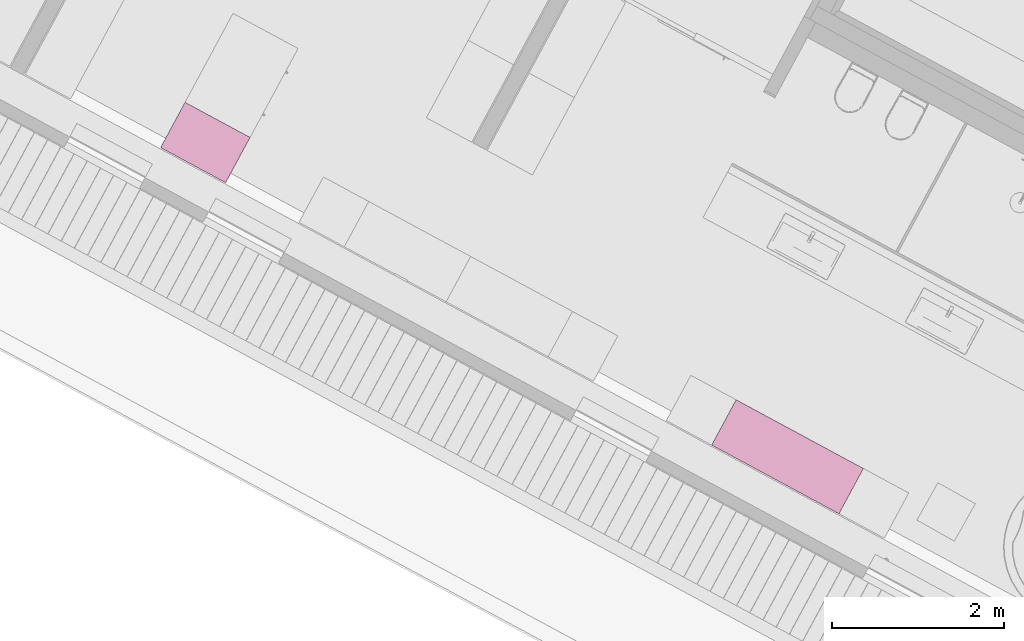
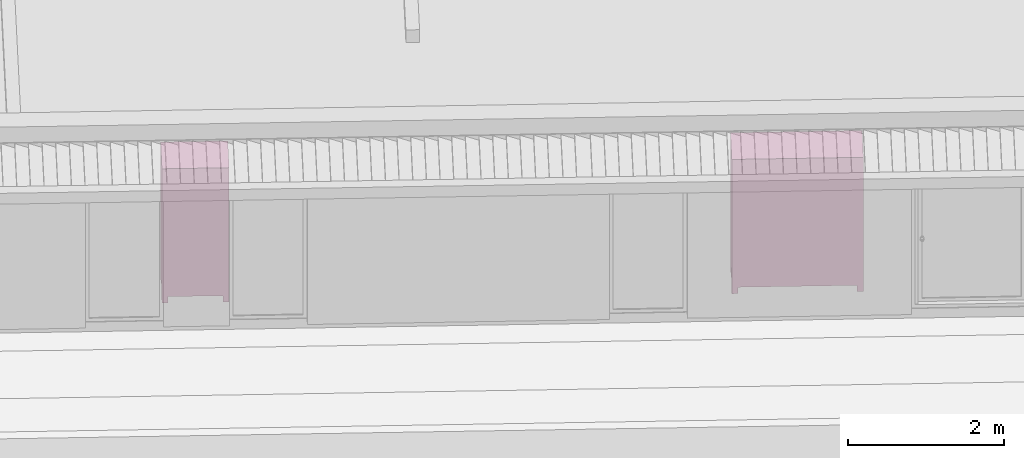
# One storey, part 25 of 48: 2 furnishings.
"""IFC2X3 building model written with IfcOpenShell, lengths in metres."""

from ifc_helpers import new_model, entity, si_unit, converted_unit, derived_unit, money_unit, direction, frame, origin_with_axes, place, context, subcontext, project, spatial, faceted_brep, type_object, element, save


model = new_model("IFC2X3")

# Units and contexts
model_context = context("Model", 3, precision=1e-05, world=origin_with_axes(), true_north=direction((0.0, 1.0)))
body_context = subcontext(model_context, "Body", "Model", "MODEL_VIEW")
ifc_project = project(units=[si_unit("LENGTHUNIT", "METRE"), si_unit("AREAUNIT", "SQUARE_METRE"), si_unit("VOLUMEUNIT", "CUBIC_METRE"), converted_unit("PLANEANGLEUNIT", "DEGREE", entity("IfcPlaneAngleMeasure", 0.0174532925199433), si_unit("PLANEANGLEUNIT", "RADIAN"), dimensions=[0, 0, 0, 0, 0, 0, 0]), money_unit("EUR"), converted_unit("TIMEUNIT", "Year", entity("IfcTimeMeasure", 31556926.0), si_unit("TIMEUNIT", "SECOND"), dimensions=[0, 0, 1, 0, 0, 0, 0]), si_unit("MASSUNIT", "GRAM", prefix="KILO"), si_unit("THERMODYNAMICTEMPERATUREUNIT", "DEGREE_CELSIUS"), si_unit("LUMINOUSINTENSITYUNIT", "LUMEN"), si_unit("ENERGYUNIT", "JOULE", prefix="MEGA"), derived_unit("THERMALCONDUCTANCEUNIT", [(si_unit("POWERUNIT", "WATT"), 1), (si_unit("LENGTHUNIT", "METRE"), -1), (si_unit("THERMODYNAMICTEMPERATUREUNIT", "KELVIN"), -1)]), derived_unit("SPECIFICHEATCAPACITYUNIT", [(si_unit("ENERGYUNIT", "JOULE"), 1), (si_unit("MASSUNIT", "GRAM", prefix="KILO"), -1), (si_unit("THERMODYNAMICTEMPERATUREUNIT", "KELVIN"), -1)]), derived_unit("MASSDENSITYUNIT", [(si_unit("MASSUNIT", "GRAM", prefix="KILO"), 1), (si_unit("VOLUMEUNIT", "CUBIC_METRE"), -1)])], contexts=[model_context])

# Site, building, storey
site_placement = place(None, frame((-3.949935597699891, 1.740105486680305, 0.0), z_axis=(0.0, 0.0, 1.0), x_axis=(0.8799804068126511, -0.475009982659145, 0.0)))
site = spatial("IfcSite", under=ifc_project, at=site_placement, Name="Gelände", CompositionType="ELEMENT")
building_placement = place(site_placement, origin_with_axes())
building = spatial("IfcBuilding", under=site, at=building_placement, Name="Gebäude", CompositionType="ELEMENT")
storey_placement = place(building_placement, frame((0.0, 0.0, 4.55), z_axis=(0.0, 0.0, 1.0), x_axis=(1.0, 0.0, 0.0)))
storey = spatial("IfcBuildingStorey", under=building, at=storey_placement, Name="Staffelgeschoss", CompositionType="ELEMENT", Elevation=4.55)

# Furnishings
furnishing_element_type = type_object("IfcFurnishingElementType", Name="Kleiderschrank 22")
furnishing_1_placement = place(storey_placement, frame((13.41639593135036, 2.239997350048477, 0.0), z_axis=(0.0, 0.0, 1.0), x_axis=(-1.0, 0.0, 0.0)))
element("IfcFurnishingElement", 1, at=furnishing_1_placement, inside=storey, type_object=furnishing_element_type, Name="Objekt-0066", context=body_context, shape_type="Brep", body=[
    faceted_brep([(-0.02000000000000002, 0.6000049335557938, 0.12), (-0.02000000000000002, 0.6000049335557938, 2.05), (-0.02000000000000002, 0.5800049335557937, 2.05), (-0.02000000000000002, 0.5800049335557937, 0.12), (-0.8418297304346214, 0.6000049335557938, 0.12), (-0.8418297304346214, 0.6000049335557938, 2.05), (-0.8418297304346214, 0.5800049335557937, 2.05), (-0.8418297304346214, 0.5800049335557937, 0.12)], [[[0, 1, 2, 3]], [[4, 5, 1, 0]], [[1, 5, 6, 2]], [[3, 2, 6, 7]], [[0, 3, 7, 4]], [[7, 6, 5, 4]]]),
    faceted_brep([(-0.8618297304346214, 0.05000000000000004, 0.1), (-0.8618297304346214, 0.6000049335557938, 0.1), (-0.8418297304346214, 0.6000049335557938, 0.1), (-0.8418297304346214, 0.05000000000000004, 0.1), (-0.8618297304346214, 0.05000000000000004, 2.07), (-0.8618297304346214, 0.6000049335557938, 2.07), (-0.8418297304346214, 0.6000049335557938, 2.07), (-0.8418297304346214, 0.05000000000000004, 2.07)], [[[0, 1, 2, 3]], [[0, 4, 5, 1]], [[1, 5, 6, 2]], [[2, 6, 7, 3]], [[3, 7, 4, 0]], [[7, 6, 5, 4]]]),
    faceted_brep([(-0.02, 0.05000000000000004, 0.1), (-0.02, 0.6000049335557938, 0.1), (0.0, 0.6000049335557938, 0.1), (0.0, 0.05000000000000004, 0.1), (-0.02, 0.05000000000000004, 2.07), (-0.02, 0.6000049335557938, 2.07), (0.0, 0.6000049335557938, 2.07), (0.0, 0.05000000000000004, 2.07)], [[[0, 1, 2, 3]], [[0, 4, 5, 1]], [[1, 5, 6, 2]], [[2, 6, 7, 3]], [[3, 7, 4, 0]], [[7, 6, 5, 4]]]),
    faceted_brep([(-0.8418297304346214, 0.05000000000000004, 0.1), (-0.8418297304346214, 0.6000049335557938, 0.1), (-0.02000000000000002, 0.6000049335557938, 0.1), (-0.02000000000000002, 0.05000000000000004, 0.1), (-0.8418297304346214, 0.05000000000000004, 0.12), (-0.8418297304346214, 0.6000049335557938, 0.12), (-0.02000000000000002, 0.6000049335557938, 0.12), (-0.02000000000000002, 0.05000000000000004, 0.12)], [[[0, 1, 2, 3]], [[0, 4, 5, 1]], [[1, 5, 6, 2]], [[2, 6, 7, 3]], [[3, 7, 4, 0]], [[7, 6, 5, 4]]]),
    faceted_brep([(-0.8418297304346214, 0.05000000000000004, 2.05), (-0.8418297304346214, 0.6000049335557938, 2.05), (-0.02000000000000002, 0.6000049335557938, 2.05), (-0.02000000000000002, 0.05000000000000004, 2.05), (-0.8418297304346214, 0.05000000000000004, 2.07), (-0.8418297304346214, 0.6000049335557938, 2.07), (-0.02000000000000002, 0.6000049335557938, 2.07), (-0.02000000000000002, 0.05000000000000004, 2.07)], [[[0, 1, 2, 3]], [[0, 4, 5, 1]], [[1, 5, 6, 2]], [[2, 6, 7, 3]], [[3, 7, 4, 0]], [[7, 6, 5, 4]]]),
    faceted_brep([(-0.8618297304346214, 0.6000049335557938, 2.07), (-0.8618297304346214, 0.0, 2.07), (-0.8618297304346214, 0.0, 2.1), (-0.8618297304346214, 0.6000049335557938, 2.1), (0.0, 0.6000049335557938, 2.07), (0.0, 0.0, 2.07), (0.0, 0.0, 2.1), (0.0, 0.6000049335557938, 2.1)], [[[0, 1, 2, 3]], [[0, 4, 5, 1]], [[1, 5, 6, 2]], [[3, 2, 6, 7]], [[4, 0, 3, 7]], [[5, 4, 7, 6]]]),
    faceted_brep([(-0.07999999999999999, 0.5200049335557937, 0.0), (-0.07999999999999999, 0.5200049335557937, 0.1), (-0.07999999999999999, 0.6000049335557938, 0.1), (-0.07999999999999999, 0.6000049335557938, 0.0), (0.0, 0.5200049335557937, 0.0), (0.0, 0.5200049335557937, 0.1), (0.0, 0.6000049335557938, 0.1), (0.0, 0.6000049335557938, 0.0)], [[[0, 1, 2, 3]], [[4, 5, 1, 0]], [[1, 5, 6, 2]], [[3, 2, 6, 7]], [[0, 3, 7, 4]], [[7, 6, 5, 4]]]),
    faceted_brep([(-0.8618297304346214, 0.5200049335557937, 0.0), (-0.8618297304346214, 0.5200049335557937, 0.1), (-0.8618297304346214, 0.6000049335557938, 0.1), (-0.8618297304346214, 0.6000049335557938, 0.0), (-0.7818297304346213, 0.5200049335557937, 0.0), (-0.7818297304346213, 0.5200049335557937, 0.1), (-0.7818297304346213, 0.6000049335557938, 0.1), (-0.7818297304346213, 0.6000049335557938, 0.0)], [[[0, 1, 2, 3]], [[4, 5, 1, 0]], [[1, 5, 6, 2]], [[3, 2, 6, 7]], [[0, 3, 7, 4]], [[7, 6, 5, 4]]]),
    faceted_brep([(-0.07999999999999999, 0.05000000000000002, 0.0), (-0.07999999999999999, 0.05000000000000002, 0.1), (-0.07999999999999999, 0.13, 0.1), (-0.07999999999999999, 0.13, 0.0), (0.0, 0.05000000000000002, 0.0), (0.0, 0.05000000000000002, 0.1), (0.0, 0.13, 0.1), (0.0, 0.13, 0.0)], [[[0, 1, 2, 3]], [[4, 5, 1, 0]], [[1, 5, 6, 2]], [[3, 2, 6, 7]], [[0, 3, 7, 4]], [[7, 6, 5, 4]]]),
    faceted_brep([(-0.8618297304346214, 0.05000000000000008, 0.0), (-0.8618297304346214, 0.05000000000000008, 0.1), (-0.8618297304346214, 0.1300000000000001, 0.1), (-0.8618297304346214, 0.1300000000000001, 0.0), (-0.7818297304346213, 0.05000000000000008, 0.0), (-0.7818297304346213, 0.05000000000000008, 0.1), (-0.7818297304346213, 0.1300000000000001, 0.1), (-0.7818297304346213, 0.1300000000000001, 0.0)], [[[0, 1, 2, 3]], [[4, 5, 1, 0]], [[1, 5, 6, 2]], [[3, 2, 6, 7]], [[0, 3, 7, 4]], [[7, 6, 5, 4]]]),
    faceted_brep([(-0.4304148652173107, 0.05, 0.1104999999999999), (-0.4304148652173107, 0.03, 0.1104999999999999), (-0.4304148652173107, 0.03000000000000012, 2.0595), (-0.4304148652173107, 0.05000000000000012, 2.0595), (-0.4004148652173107, 0.05, 0.1405), (-0.4004148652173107, 0.03000000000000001, 0.1405), (-0.4004148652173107, 0.03000000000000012, 2.0295), (-0.4004148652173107, 0.05000000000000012, 2.0295)], [[[0, 1, 2, 3]], [[4, 5, 1, 0]], [[1, 5, 6, 2]], [[3, 2, 6, 7]], [[0, 3, 7, 4]], [[7, 6, 5, 4]]]),
    faceted_brep([(-0.04050000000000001, 0.05, 0.1405), (-0.04050000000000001, 0.03000000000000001, 0.1405), (-0.04050000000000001, 0.03000000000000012, 2.0295), (-0.04050000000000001, 0.05000000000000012, 2.0295), (-0.01050000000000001, 0.05, 0.1104999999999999), (-0.01050000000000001, 0.03, 0.1104999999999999), (-0.01050000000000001, 0.03000000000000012, 2.0595), (-0.01050000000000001, 0.05000000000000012, 2.0595)], [[[0, 1, 2, 3]], [[4, 5, 1, 0]], [[1, 5, 6, 2]], [[3, 2, 6, 7]], [[0, 3, 7, 4]], [[7, 6, 5, 4]]]),
    faceted_brep([(-0.01050000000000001, 0.05, 0.1104999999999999), (-0.01050000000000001, 0.03, 0.1104999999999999), (-0.4304148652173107, 0.03, 0.1104999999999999), (-0.4304148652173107, 0.05, 0.1104999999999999), (-0.04050000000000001, 0.05, 0.1405), (-0.04050000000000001, 0.03000000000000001, 0.1405), (-0.4004148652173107, 0.03000000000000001, 0.1405), (-0.4004148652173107, 0.05, 0.1405)], [[[0, 1, 2, 3]], [[4, 5, 1, 0]], [[1, 5, 6, 2]], [[3, 2, 6, 7]], [[0, 3, 7, 4]], [[7, 6, 5, 4]]]),
    faceted_brep([(-0.04050000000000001, 0.05000000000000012, 2.0295), (-0.04050000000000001, 0.03000000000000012, 2.0295), (-0.4004148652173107, 0.03000000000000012, 2.0295), (-0.4004148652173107, 0.05000000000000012, 2.0295), (-0.01050000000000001, 0.05000000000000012, 2.0595), (-0.01050000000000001, 0.03000000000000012, 2.0595), (-0.4304148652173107, 0.03000000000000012, 2.0595), (-0.4304148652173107, 0.05000000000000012, 2.0595)], [[[0, 1, 2, 3]], [[4, 5, 1, 0]], [[1, 5, 6, 2]], [[3, 2, 6, 7]], [[0, 3, 7, 4]], [[7, 6, 5, 4]]]),
    faceted_brep([(-0.4004148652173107, 0.04500000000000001, 0.1405), (-0.4004148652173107, 0.035, 0.1405), (-0.4004148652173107, 0.03500000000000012, 2.0295), (-0.4004148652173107, 0.04500000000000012, 2.0295), (-0.04050000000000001, 0.04500000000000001, 0.1405), (-0.04050000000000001, 0.035, 0.1405), (-0.04050000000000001, 0.03500000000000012, 2.0295), (-0.04050000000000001, 0.04500000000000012, 2.0295)], [[[0, 1, 2, 3]], [[4, 5, 1, 0]], [[1, 5, 6, 2]], [[3, 2, 6, 7]], [[0, 3, 7, 4]], [[7, 6, 5, 4]]]),
    faceted_brep([(-0.390307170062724, 0.035, 0.954), (-0.3919148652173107, 0.035, 0.96), (-0.390307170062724, 0.035, 0.966), (-0.3859148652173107, 0.035, 0.9703923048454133), (-0.3799148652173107, 0.035, 0.972), (-0.3739148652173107, 0.035, 0.9703923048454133), (-0.3695225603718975, 0.035, 0.966), (-0.3679148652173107, 0.035, 0.96), (-0.3695225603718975, 0.035, 0.954), (-0.3739148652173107, 0.035, 0.9496076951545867), (-0.3799148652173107, 0.035, 0.948), (-0.3859148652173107, 0.035, 0.9496076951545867), (-0.390307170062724, 0.01, 0.954), (-0.3919148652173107, 0.01, 0.96), (-0.390307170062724, 0.01, 0.966), (-0.3859148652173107, 0.01, 0.9703923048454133), (-0.3799148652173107, 0.01, 0.972), (-0.3739148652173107, 0.01, 0.9703923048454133), (-0.3695225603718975, 0.01, 0.966), (-0.3679148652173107, 0.01, 0.96), (-0.3695225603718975, 0.01, 0.954), (-0.3739148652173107, 0.01, 0.9496076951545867), (-0.3799148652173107, 0.01, 0.948), (-0.3859148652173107, 0.01, 0.9496076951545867)], [[[0, 1, 2, 3, 4, 5, 6, 7, 8, 9, 10, 11]], [[0, 12, 13, 1]], [[1, 13, 14, 2]], [[2, 14, 15, 3]], [[3, 15, 16, 4]], [[4, 16, 17, 5]], [[5, 17, 18, 6]], [[6, 18, 19, 7]], [[7, 19, 20, 8]], [[8, 20, 21, 9]], [[9, 21, 22, 10]], [[10, 22, 23, 11]], [[11, 23, 12, 0]], [[12, 23, 22, 21, 20, 19, 18, 17, 16, 15, 14, 13]]]),
    faceted_brep([(-0.8523297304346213, 0.05, 0.1104999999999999), (-0.8523297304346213, 0.03, 0.1104999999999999), (-0.8523297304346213, 0.03000000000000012, 2.0595), (-0.8523297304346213, 0.05000000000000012, 2.0595), (-0.8223297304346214, 0.05, 0.1405), (-0.8223297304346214, 0.03000000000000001, 0.1405), (-0.8223297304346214, 0.03000000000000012, 2.0295), (-0.8223297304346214, 0.05000000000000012, 2.0295)], [[[0, 1, 2, 3]], [[4, 5, 1, 0]], [[1, 5, 6, 2]], [[3, 2, 6, 7]], [[0, 3, 7, 4]], [[7, 6, 5, 4]]]),
    faceted_brep([(-0.4624148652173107, 0.05, 0.1405), (-0.4624148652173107, 0.03000000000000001, 0.1405), (-0.4624148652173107, 0.03000000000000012, 2.0295), (-0.4624148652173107, 0.05000000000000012, 2.0295), (-0.4324148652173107, 0.05, 0.1104999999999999), (-0.4324148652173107, 0.03, 0.1104999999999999), (-0.4324148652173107, 0.03000000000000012, 2.0595), (-0.4324148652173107, 0.05000000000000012, 2.0595)], [[[0, 1, 2, 3]], [[4, 5, 1, 0]], [[1, 5, 6, 2]], [[3, 2, 6, 7]], [[0, 3, 7, 4]], [[7, 6, 5, 4]]]),
    faceted_brep([(-0.4324148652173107, 0.05, 0.1104999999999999), (-0.4324148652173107, 0.03, 0.1104999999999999), (-0.8523297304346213, 0.03, 0.1104999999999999), (-0.8523297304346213, 0.05, 0.1104999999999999), (-0.4624148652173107, 0.05, 0.1405), (-0.4624148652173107, 0.03000000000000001, 0.1405), (-0.8223297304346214, 0.03000000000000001, 0.1405), (-0.8223297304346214, 0.05, 0.1405)], [[[0, 1, 2, 3]], [[4, 5, 1, 0]], [[1, 5, 6, 2]], [[3, 2, 6, 7]], [[0, 3, 7, 4]], [[7, 6, 5, 4]]]),
    faceted_brep([(-0.4624148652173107, 0.05000000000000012, 2.0295), (-0.4624148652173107, 0.03000000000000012, 2.0295), (-0.8223297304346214, 0.03000000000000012, 2.0295), (-0.8223297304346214, 0.05000000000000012, 2.0295), (-0.4324148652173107, 0.05000000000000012, 2.0595), (-0.4324148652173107, 0.03000000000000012, 2.0595), (-0.8523297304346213, 0.03000000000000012, 2.0595), (-0.8523297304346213, 0.05000000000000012, 2.0595)], [[[0, 1, 2, 3]], [[4, 5, 1, 0]], [[1, 5, 6, 2]], [[3, 2, 6, 7]], [[0, 3, 7, 4]], [[7, 6, 5, 4]]]),
    faceted_brep([(-0.8223297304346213, 0.04500000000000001, 0.1405), (-0.8223297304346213, 0.04000000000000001, 0.1405), (-0.8223297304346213, 0.04000000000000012, 2.0295), (-0.8223297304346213, 0.04500000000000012, 2.0295), (-0.4624148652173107, 0.04500000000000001, 0.1405), (-0.4624148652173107, 0.04000000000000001, 0.1405), (-0.4624148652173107, 0.04000000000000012, 2.0295), (-0.4624148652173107, 0.04500000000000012, 2.0295)], [[[0, 1, 2, 3]], [[4, 5, 1, 0]], [[1, 5, 6, 2]], [[3, 2, 6, 7]], [[0, 3, 7, 4]], [[7, 6, 5, 4]]]),
    faceted_brep([(-0.8223297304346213, 0.04000000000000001, 0.1405), (-0.8223297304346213, 0.03500000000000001, 0.1405), (-0.8223297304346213, 0.03500000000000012, 2.0295), (-0.8223297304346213, 0.04000000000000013, 2.0295), (-0.4624148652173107, 0.04000000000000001, 0.1405), (-0.4624148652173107, 0.03500000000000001, 0.1405), (-0.4624148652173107, 0.03500000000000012, 2.0295), (-0.4624148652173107, 0.04000000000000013, 2.0295)], [[[0, 1, 2, 3]], [[4, 5, 1, 0]], [[1, 5, 6, 2]], [[3, 2, 6, 7]], [[0, 3, 7, 4]], [[7, 6, 5, 4]]]),
    faceted_brep([(-0.4715225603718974, 0.035, 0.954), (-0.4759148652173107, 0.035, 0.9496076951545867), (-0.4819148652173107, 0.035, 0.948), (-0.4879148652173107, 0.035, 0.9496076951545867), (-0.492307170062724, 0.035, 0.954), (-0.4939148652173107, 0.035, 0.96), (-0.492307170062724, 0.035, 0.966), (-0.4879148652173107, 0.035, 0.9703923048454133), (-0.4819148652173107, 0.035, 0.972), (-0.4759148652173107, 0.035, 0.9703923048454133), (-0.4715225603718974, 0.035, 0.966), (-0.4699148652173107, 0.035, 0.96), (-0.4715225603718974, 0.01, 0.954), (-0.4759148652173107, 0.01, 0.9496076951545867), (-0.4819148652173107, 0.01, 0.948), (-0.4879148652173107, 0.01, 0.9496076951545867), (-0.492307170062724, 0.01, 0.954), (-0.4939148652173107, 0.01, 0.96), (-0.492307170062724, 0.01, 0.966), (-0.4879148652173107, 0.01, 0.9703923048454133), (-0.4819148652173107, 0.01, 0.972), (-0.4759148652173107, 0.01, 0.9703923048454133), (-0.4715225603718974, 0.01, 0.966), (-0.4699148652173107, 0.01, 0.96)], [[[0, 1, 2, 3, 4, 5, 6, 7, 8, 9, 10, 11]], [[1, 0, 12, 13]], [[2, 1, 13, 14]], [[3, 2, 14, 15]], [[4, 3, 15, 16]], [[5, 4, 16, 17]], [[6, 5, 17, 18]], [[7, 6, 18, 19]], [[8, 7, 19, 20]], [[9, 8, 20, 21]], [[10, 9, 21, 22]], [[11, 10, 22, 23]], [[0, 11, 23, 12]], [[12, 23, 22, 21, 20, 19, 18, 17, 16, 15, 14, 13]]]),
])
furnishing_2_placement = place(storey_placement, frame((20.71771607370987, 2.239992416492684, 0.0), z_axis=(0.0, 0.0, 1.0), x_axis=(-1.0, 0.0, 0.0)))
element("IfcFurnishingElement", 2, at=furnishing_2_placement, inside=storey, type_object=furnishing_element_type, Name="Objekt-0066", context=body_context, shape_type="Brep", body=[
    faceted_brep([(-0.02000000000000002, 0.6000000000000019, 0.12), (-0.02000000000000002, 0.6000000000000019, 2.05), (-0.02000000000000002, 0.5800000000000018, 2.05), (-0.02000000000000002, 0.5800000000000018, 0.12), (-1.66712455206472, 0.6000000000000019, 0.12), (-1.66712455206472, 0.6000000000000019, 2.05), (-1.66712455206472, 0.5800000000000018, 2.05), (-1.66712455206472, 0.5800000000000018, 0.12)], [[[0, 1, 2, 3]], [[4, 5, 1, 0]], [[1, 5, 6, 2]], [[3, 2, 6, 7]], [[0, 3, 7, 4]], [[7, 6, 5, 4]]]),
    faceted_brep([(-1.68712455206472, 0.05000000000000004, 0.1), (-1.68712455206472, 0.6000000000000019, 0.1), (-1.66712455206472, 0.6000000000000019, 0.1), (-1.66712455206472, 0.05000000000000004, 0.1), (-1.68712455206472, 0.05000000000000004, 2.07), (-1.68712455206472, 0.6000000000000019, 2.07), (-1.66712455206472, 0.6000000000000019, 2.07), (-1.66712455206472, 0.05000000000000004, 2.07)], [[[0, 1, 2, 3]], [[0, 4, 5, 1]], [[1, 5, 6, 2]], [[2, 6, 7, 3]], [[3, 7, 4, 0]], [[7, 6, 5, 4]]]),
    faceted_brep([(-0.02, 0.05000000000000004, 0.1), (-0.02, 0.6000000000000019, 0.1), (0.0, 0.6000000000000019, 0.1), (0.0, 0.05000000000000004, 0.1), (-0.02, 0.05000000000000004, 2.07), (-0.02, 0.6000000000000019, 2.07), (0.0, 0.6000000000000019, 2.07), (0.0, 0.05000000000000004, 2.07)], [[[0, 1, 2, 3]], [[0, 4, 5, 1]], [[1, 5, 6, 2]], [[2, 6, 7, 3]], [[3, 7, 4, 0]], [[7, 6, 5, 4]]]),
    faceted_brep([(-1.66712455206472, 0.05000000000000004, 0.1), (-1.66712455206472, 0.6000000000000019, 0.1), (-0.02000000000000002, 0.6000000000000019, 0.1), (-0.02000000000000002, 0.05000000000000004, 0.1), (-1.66712455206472, 0.05000000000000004, 0.12), (-1.66712455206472, 0.6000000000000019, 0.12), (-0.02000000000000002, 0.6000000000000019, 0.12), (-0.02000000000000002, 0.05000000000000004, 0.12)], [[[0, 1, 2, 3]], [[0, 4, 5, 1]], [[1, 5, 6, 2]], [[2, 6, 7, 3]], [[3, 7, 4, 0]], [[7, 6, 5, 4]]]),
    faceted_brep([(-1.66712455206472, 0.05000000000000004, 2.05), (-1.66712455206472, 0.6000000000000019, 2.05), (-0.02000000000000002, 0.6000000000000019, 2.05), (-0.02000000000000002, 0.05000000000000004, 2.05), (-1.66712455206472, 0.05000000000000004, 2.07), (-1.66712455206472, 0.6000000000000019, 2.07), (-0.02000000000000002, 0.6000000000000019, 2.07), (-0.02000000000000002, 0.05000000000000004, 2.07)], [[[0, 1, 2, 3]], [[0, 4, 5, 1]], [[1, 5, 6, 2]], [[2, 6, 7, 3]], [[3, 7, 4, 0]], [[7, 6, 5, 4]]]),
    faceted_brep([(-1.68712455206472, 0.6000000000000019, 2.07), (-1.68712455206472, 0.0, 2.07), (-1.68712455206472, 0.0, 2.1), (-1.68712455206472, 0.6000000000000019, 2.1), (0.0, 0.6000000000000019, 2.07), (0.0, 0.0, 2.07), (0.0, 0.0, 2.1), (0.0, 0.6000000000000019, 2.1)], [[[0, 1, 2, 3]], [[0, 4, 5, 1]], [[1, 5, 6, 2]], [[3, 2, 6, 7]], [[4, 0, 3, 7]], [[5, 4, 7, 6]]]),
    faceted_brep([(-0.08000000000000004, 0.5200000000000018, 0.0), (-0.08000000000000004, 0.5200000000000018, 0.1), (-0.08000000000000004, 0.6000000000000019, 0.1), (-0.08000000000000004, 0.6000000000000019, 0.0), (0.0, 0.5200000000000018, 0.0), (0.0, 0.5200000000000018, 0.1), (0.0, 0.6000000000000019, 0.1), (0.0, 0.6000000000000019, 0.0)], [[[0, 1, 2, 3]], [[4, 5, 1, 0]], [[1, 5, 6, 2]], [[3, 2, 6, 7]], [[0, 3, 7, 4]], [[7, 6, 5, 4]]]),
    faceted_brep([(-1.68712455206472, 0.5200000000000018, 0.0), (-1.68712455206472, 0.5200000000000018, 0.1), (-1.68712455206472, 0.6000000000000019, 0.1), (-1.68712455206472, 0.6000000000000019, 0.0), (-1.60712455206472, 0.5200000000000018, 0.0), (-1.60712455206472, 0.5200000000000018, 0.1), (-1.60712455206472, 0.6000000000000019, 0.1), (-1.60712455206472, 0.6000000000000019, 0.0)], [[[0, 1, 2, 3]], [[4, 5, 1, 0]], [[1, 5, 6, 2]], [[3, 2, 6, 7]], [[0, 3, 7, 4]], [[7, 6, 5, 4]]]),
    faceted_brep([(-0.08000000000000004, 0.05000000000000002, 0.0), (-0.08000000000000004, 0.05000000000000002, 0.1), (-0.08000000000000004, 0.13, 0.1), (-0.08000000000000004, 0.13, 0.0), (0.0, 0.05000000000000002, 0.0), (0.0, 0.05000000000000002, 0.1), (0.0, 0.13, 0.1), (0.0, 0.13, 0.0)], [[[0, 1, 2, 3]], [[4, 5, 1, 0]], [[1, 5, 6, 2]], [[3, 2, 6, 7]], [[0, 3, 7, 4]], [[7, 6, 5, 4]]]),
    faceted_brep([(-1.68712455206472, 0.05000000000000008, 0.0), (-1.68712455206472, 0.05000000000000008, 0.1), (-1.68712455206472, 0.1300000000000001, 0.1), (-1.68712455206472, 0.1300000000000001, 0.0), (-1.60712455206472, 0.05000000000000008, 0.0), (-1.60712455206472, 0.05000000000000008, 0.1), (-1.60712455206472, 0.1300000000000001, 0.1), (-1.60712455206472, 0.1300000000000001, 0.0)], [[[0, 1, 2, 3]], [[4, 5, 1, 0]], [[1, 5, 6, 2]], [[3, 2, 6, 7]], [[0, 3, 7, 4]], [[7, 6, 5, 4]]]),
    faceted_brep([(-0.8430622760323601, 0.05, 0.1104999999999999), (-0.8430622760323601, 0.03, 0.1104999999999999), (-0.8430622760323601, 0.03000000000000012, 2.0595), (-0.8430622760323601, 0.05000000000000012, 2.0595), (-0.81306227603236, 0.05, 0.1405), (-0.81306227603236, 0.03000000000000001, 0.1405), (-0.81306227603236, 0.03000000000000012, 2.0295), (-0.81306227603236, 0.05000000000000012, 2.0295)], [[[0, 1, 2, 3]], [[4, 5, 1, 0]], [[1, 5, 6, 2]], [[3, 2, 6, 7]], [[0, 3, 7, 4]], [[7, 6, 5, 4]]]),
    faceted_brep([(-0.04049999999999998, 0.05, 0.1405), (-0.04049999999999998, 0.03000000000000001, 0.1405), (-0.04049999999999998, 0.03000000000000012, 2.0295), (-0.04049999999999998, 0.05000000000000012, 2.0295), (-0.01050000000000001, 0.05, 0.1104999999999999), (-0.01050000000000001, 0.03, 0.1104999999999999), (-0.01050000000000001, 0.03000000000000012, 2.0595), (-0.01050000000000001, 0.05000000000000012, 2.0595)], [[[0, 1, 2, 3]], [[4, 5, 1, 0]], [[1, 5, 6, 2]], [[3, 2, 6, 7]], [[0, 3, 7, 4]], [[7, 6, 5, 4]]]),
    faceted_brep([(-0.01050000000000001, 0.05, 0.1104999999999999), (-0.01050000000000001, 0.03, 0.1104999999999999), (-0.8430622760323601, 0.03, 0.1104999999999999), (-0.8430622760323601, 0.05, 0.1104999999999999), (-0.04049999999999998, 0.05, 0.1405), (-0.04049999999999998, 0.03000000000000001, 0.1405), (-0.81306227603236, 0.03000000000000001, 0.1405), (-0.81306227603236, 0.05, 0.1405)], [[[0, 1, 2, 3]], [[4, 5, 1, 0]], [[1, 5, 6, 2]], [[3, 2, 6, 7]], [[0, 3, 7, 4]], [[7, 6, 5, 4]]]),
    faceted_brep([(-0.04049999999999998, 0.05000000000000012, 2.0295), (-0.04049999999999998, 0.03000000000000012, 2.0295), (-0.81306227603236, 0.03000000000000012, 2.0295), (-0.81306227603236, 0.05000000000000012, 2.0295), (-0.01050000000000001, 0.05000000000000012, 2.0595), (-0.01050000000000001, 0.03000000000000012, 2.0595), (-0.8430622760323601, 0.03000000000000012, 2.0595), (-0.8430622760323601, 0.05000000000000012, 2.0595)], [[[0, 1, 2, 3]], [[4, 5, 1, 0]], [[1, 5, 6, 2]], [[3, 2, 6, 7]], [[0, 3, 7, 4]], [[7, 6, 5, 4]]]),
    faceted_brep([(-0.81306227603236, 0.04500000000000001, 0.1405), (-0.81306227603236, 0.035, 0.1405), (-0.81306227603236, 0.03500000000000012, 2.0295), (-0.81306227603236, 0.04500000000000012, 2.0295), (-0.04049999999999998, 0.04500000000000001, 0.1405), (-0.04049999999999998, 0.035, 0.1405), (-0.04049999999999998, 0.03500000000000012, 2.0295), (-0.04049999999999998, 0.04500000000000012, 2.0295)], [[[0, 1, 2, 3]], [[4, 5, 1, 0]], [[1, 5, 6, 2]], [[3, 2, 6, 7]], [[0, 3, 7, 4]], [[7, 6, 5, 4]]]),
    faceted_brep([(-0.8029545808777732, 0.035, 0.954), (-0.80456227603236, 0.035, 0.96), (-0.8029545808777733, 0.035, 0.966), (-0.79856227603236, 0.035, 0.9703923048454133), (-0.79256227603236, 0.035, 0.972), (-0.78656227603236, 0.035, 0.9703923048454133), (-0.7821699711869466, 0.035, 0.966), (-0.78056227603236, 0.035, 0.96), (-0.7821699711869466, 0.035, 0.954), (-0.78656227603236, 0.035, 0.9496076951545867), (-0.79256227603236, 0.035, 0.948), (-0.79856227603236, 0.035, 0.9496076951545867), (-0.8029545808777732, 0.01, 0.954), (-0.80456227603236, 0.01, 0.96), (-0.8029545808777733, 0.01, 0.966), (-0.79856227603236, 0.01, 0.9703923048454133), (-0.79256227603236, 0.01, 0.972), (-0.78656227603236, 0.01, 0.9703923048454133), (-0.7821699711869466, 0.01, 0.966), (-0.78056227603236, 0.01, 0.96), (-0.7821699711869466, 0.01, 0.954), (-0.78656227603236, 0.01, 0.9496076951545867), (-0.79256227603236, 0.01, 0.948), (-0.79856227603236, 0.01, 0.9496076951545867)], [[[0, 1, 2, 3, 4, 5, 6, 7, 8, 9, 10, 11]], [[0, 12, 13, 1]], [[1, 13, 14, 2]], [[2, 14, 15, 3]], [[3, 15, 16, 4]], [[4, 16, 17, 5]], [[5, 17, 18, 6]], [[6, 18, 19, 7]], [[7, 19, 20, 8]], [[8, 20, 21, 9]], [[9, 21, 22, 10]], [[10, 22, 23, 11]], [[11, 23, 12, 0]], [[12, 23, 22, 21, 20, 19, 18, 17, 16, 15, 14, 13]]]),
    faceted_brep([(-1.67762455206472, 0.05, 0.1104999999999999), (-1.67762455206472, 0.03, 0.1104999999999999), (-1.67762455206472, 0.03000000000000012, 2.0595), (-1.67762455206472, 0.05000000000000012, 2.0595), (-1.64762455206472, 0.05, 0.1405), (-1.64762455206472, 0.03000000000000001, 0.1405), (-1.64762455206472, 0.03000000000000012, 2.0295), (-1.64762455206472, 0.05000000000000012, 2.0295)], [[[0, 1, 2, 3]], [[4, 5, 1, 0]], [[1, 5, 6, 2]], [[3, 2, 6, 7]], [[0, 3, 7, 4]], [[7, 6, 5, 4]]]),
    faceted_brep([(-0.87506227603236, 0.05, 0.1405), (-0.87506227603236, 0.03000000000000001, 0.1405), (-0.87506227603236, 0.03000000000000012, 2.0295), (-0.87506227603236, 0.05000000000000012, 2.0295), (-0.8450622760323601, 0.05, 0.1104999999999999), (-0.8450622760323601, 0.03, 0.1104999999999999), (-0.8450622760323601, 0.03000000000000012, 2.0595), (-0.8450622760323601, 0.05000000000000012, 2.0595)], [[[0, 1, 2, 3]], [[4, 5, 1, 0]], [[1, 5, 6, 2]], [[3, 2, 6, 7]], [[0, 3, 7, 4]], [[7, 6, 5, 4]]]),
    faceted_brep([(-0.8450622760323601, 0.05, 0.1104999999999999), (-0.8450622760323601, 0.03, 0.1104999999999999), (-1.67762455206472, 0.03, 0.1104999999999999), (-1.67762455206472, 0.05, 0.1104999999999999), (-0.87506227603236, 0.05, 0.1405), (-0.87506227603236, 0.03000000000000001, 0.1405), (-1.64762455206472, 0.03000000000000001, 0.1405), (-1.64762455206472, 0.05, 0.1405)], [[[0, 1, 2, 3]], [[4, 5, 1, 0]], [[1, 5, 6, 2]], [[3, 2, 6, 7]], [[0, 3, 7, 4]], [[7, 6, 5, 4]]]),
    faceted_brep([(-0.87506227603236, 0.05000000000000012, 2.0295), (-0.87506227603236, 0.03000000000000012, 2.0295), (-1.64762455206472, 0.03000000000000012, 2.0295), (-1.64762455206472, 0.05000000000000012, 2.0295), (-0.8450622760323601, 0.05000000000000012, 2.0595), (-0.8450622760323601, 0.03000000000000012, 2.0595), (-1.67762455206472, 0.03000000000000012, 2.0595), (-1.67762455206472, 0.05000000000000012, 2.0595)], [[[0, 1, 2, 3]], [[4, 5, 1, 0]], [[1, 5, 6, 2]], [[3, 2, 6, 7]], [[0, 3, 7, 4]], [[7, 6, 5, 4]]]),
    faceted_brep([(-1.64762455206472, 0.04500000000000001, 0.1405), (-1.64762455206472, 0.04000000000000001, 0.1405), (-1.64762455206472, 0.04000000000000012, 2.0295), (-1.64762455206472, 0.04500000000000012, 2.0295), (-0.87506227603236, 0.04500000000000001, 0.1405), (-0.87506227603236, 0.04000000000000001, 0.1405), (-0.87506227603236, 0.04000000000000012, 2.0295), (-0.87506227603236, 0.04500000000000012, 2.0295)], [[[0, 1, 2, 3]], [[4, 5, 1, 0]], [[1, 5, 6, 2]], [[3, 2, 6, 7]], [[0, 3, 7, 4]], [[7, 6, 5, 4]]]),
    faceted_brep([(-1.64762455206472, 0.04000000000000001, 0.1405), (-1.64762455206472, 0.03500000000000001, 0.1405), (-1.64762455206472, 0.03500000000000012, 2.0295), (-1.64762455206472, 0.04000000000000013, 2.0295), (-0.87506227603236, 0.04000000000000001, 0.1405), (-0.87506227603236, 0.03500000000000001, 0.1405), (-0.87506227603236, 0.03500000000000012, 2.0295), (-0.87506227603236, 0.04000000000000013, 2.0295)], [[[0, 1, 2, 3]], [[4, 5, 1, 0]], [[1, 5, 6, 2]], [[3, 2, 6, 7]], [[0, 3, 7, 4]], [[7, 6, 5, 4]]]),
    faceted_brep([(-0.8841699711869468, 0.035, 0.954), (-0.88856227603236, 0.035, 0.9496076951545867), (-0.89456227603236, 0.035, 0.948), (-0.90056227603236, 0.035, 0.9496076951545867), (-0.9049545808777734, 0.035, 0.954), (-0.9065622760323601, 0.035, 0.96), (-0.9049545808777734, 0.035, 0.966), (-0.90056227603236, 0.035, 0.9703923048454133), (-0.89456227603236, 0.035, 0.972), (-0.88856227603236, 0.035, 0.9703923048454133), (-0.8841699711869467, 0.035, 0.966), (-0.88256227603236, 0.035, 0.96), (-0.8841699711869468, 0.01, 0.954), (-0.88856227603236, 0.01, 0.9496076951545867), (-0.89456227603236, 0.01, 0.948), (-0.90056227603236, 0.01, 0.9496076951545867), (-0.9049545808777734, 0.01, 0.954), (-0.9065622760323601, 0.01, 0.96), (-0.9049545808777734, 0.01, 0.966), (-0.90056227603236, 0.01, 0.9703923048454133), (-0.89456227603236, 0.01, 0.972), (-0.88856227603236, 0.01, 0.9703923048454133), (-0.8841699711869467, 0.01, 0.966), (-0.88256227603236, 0.01, 0.96)], [[[0, 1, 2, 3, 4, 5, 6, 7, 8, 9, 10, 11]], [[1, 0, 12, 13]], [[2, 1, 13, 14]], [[3, 2, 14, 15]], [[4, 3, 15, 16]], [[5, 4, 16, 17]], [[6, 5, 17, 18]], [[7, 6, 18, 19]], [[8, 7, 19, 20]], [[9, 8, 20, 21]], [[10, 9, 21, 22]], [[11, 10, 22, 23]], [[0, 11, 23, 12]], [[12, 23, 22, 21, 20, 19, 18, 17, 16, 15, 14, 13]]]),
])

save(model, "model.ifc")
